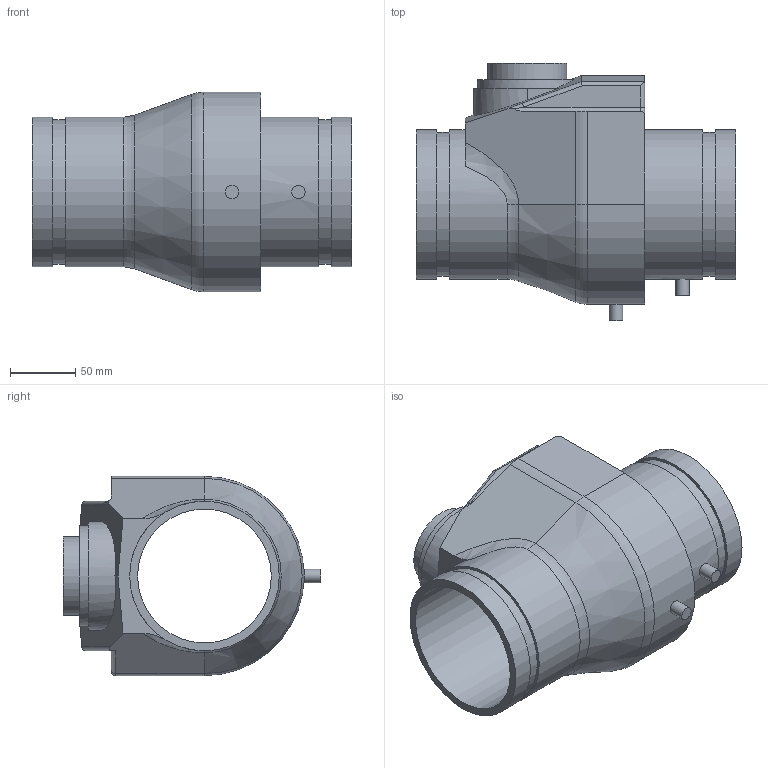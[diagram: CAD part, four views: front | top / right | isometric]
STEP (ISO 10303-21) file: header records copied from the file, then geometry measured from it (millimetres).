
FILE_DESCRIPTION(/* description */ ('VIC FIRELOCK CHECK VALVE SERIES 717','CAx-IF Rec.Pracs.---Representation and Presentation of Product Manufacturing Information (PMI)---4.0---2014-10-13'),/* implementation_level */ '2;1');
FILE_NAME(/* name */ 'C:\Users\Vjadhav\AppData\Roaming\Autodesk\ApplicationPlugins\Back Up\Victaulic_FP-FireLock_Valve Check_Series 717 (OGS)\Victaulic_FP-FireLock_Valve Check_4 (100).stp',/* time_stamp */ '2020-07-17T15:00:35+06:00',/* author */ ('kkamble'),/* organization */ ('Victaulic'),/* preprocessor_version */ 'ST-DEVELOPER v17.2',/* originating_system */ 'Autodesk Inventor 2019',/* authorisation */ '');
FILE_SCHEMA (('AP203_CONFIGURATION_CONTROLLED_3D_DESIGN_OF_MECHANICAL_PARTS_AND_ASSEMBLIES_MIM_LF { 1 0 10303 203 3 1 4 }','AP242_MANAGED_MODEL_BASED_3D_ENGINEERING_MIM_LF { 1 0 10303 442 1 1 4 }'));
Length unit declared in the file: inch
Products named in the file (2): 717-04.0; 717 - 04.0
Assembly tree (1 placements, depth 2):
  717-04.0
    717 - 04.0
Bounding box: 244.6 x 196.85 x 152.4 mm (x, y, z)
Volume: 1701414.6 mm3; surface area: 215777.9 mm2
Topology: 2 solids, 2 shells, 63 faces, 158 edges, 105 vertices
Faces by surface type: plane 29, cylinder 26, torus 4, bspline 3, cone 1
Full cylindrical faces by diameter (mm): 10.16 x2, 60.325 x1, 102.26 x1, 110.084 x2, 114.3 x4
Entity records: 2192 total; most frequent: CARTESIAN_POINT 470, DIRECTION 358, ORIENTED_EDGE 318, EDGE_CURVE 159, AXIS2_PLACEMENT_3D 143, VERTEX_POINT 107, EDGE_LOOP 72, LINE 72
